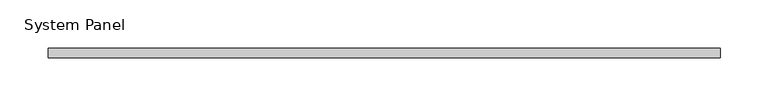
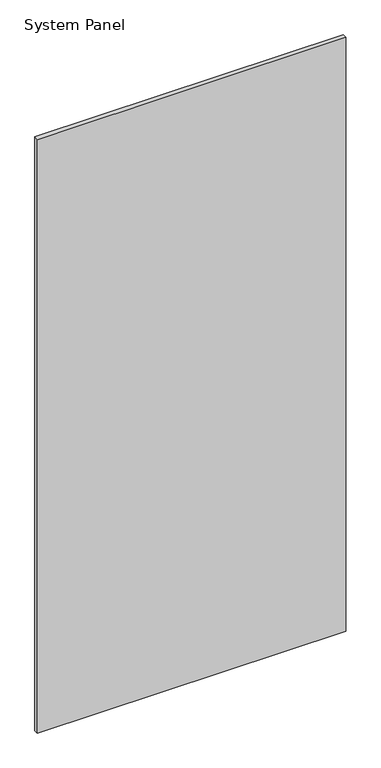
"""IFC4 building model written with IfcOpenShell, lengths in millimetres: plate geometry, System Panel : стекло_смещение_0."""

from ifc_helpers import new_model, si_unit, origin, origin_with_axes, place, context, project, spatial, polyline, outline, extrude, source, transform, mapped, element, save


def system_panel_f206c459(model_context):
    return source(origin(), model_context, "Body", "SweptSolid", [
        extrude(outline(polyline([(350.0, -5.0), (-350.0, -5.0), (-350.0, 5.0), (350.0, 5.0), (350.0, -5.0)])), origin_with_axes(), (0.0, 0.0, 1.0), 1425.0),
    ])


if __name__ == "__main__":
    model = new_model("IFC4")
    model_context = context("Model", 3, world=origin())
    ifc_project = project(units=[si_unit("LENGTHUNIT", "METRE", prefix="MILLI")], contexts=[model_context])
    site = spatial("IfcSite", under=ifc_project)
    building = spatial("IfcBuilding", under=site)
    placement = place(None, origin())
    system_panel_shape = system_panel_f206c459(model_context)
    element("IfcPlate", 1, ObjectType="System Panel : стекло_смещение_0", at=placement, inside=building, context=model_context, shape_type="MappedRepresentation", body=[
        mapped(system_panel_shape, transform((0.0, 0.0, 0.0), x_axis=(1.0, 0.0, 0.0), y_axis=(0.0, 1.0, 0.0), z_axis=(0.0, 0.0, 1.0))),
    ])
    save(model, "model.ifc")
